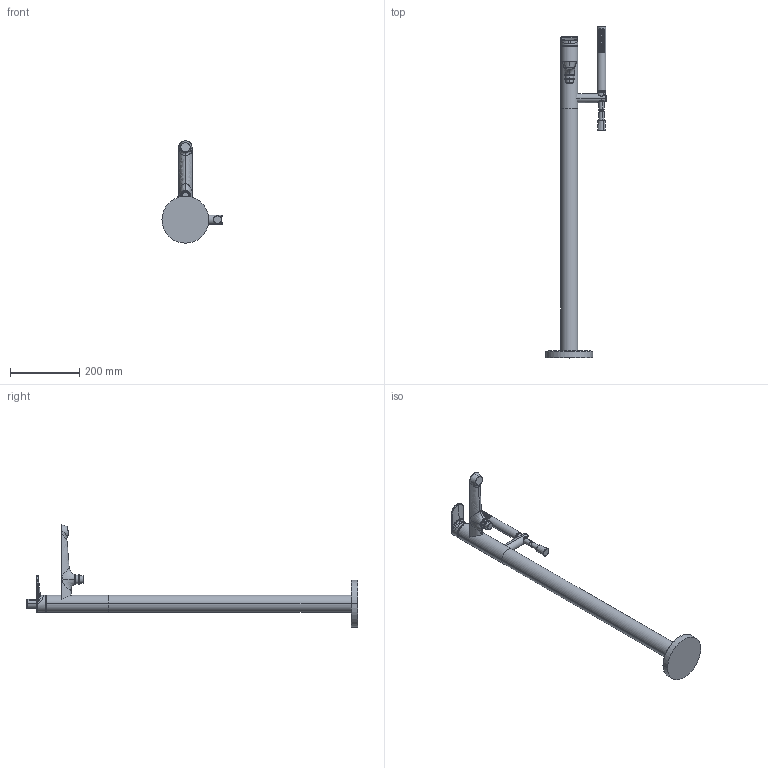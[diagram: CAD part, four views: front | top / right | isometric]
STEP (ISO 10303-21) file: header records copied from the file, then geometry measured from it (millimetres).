
FILE_DESCRIPTION (( 'STEP AP203' ), '1' );
FILE_NAME ('37832063(2025).STEP', '2024-12-18T07:10:31', ( '' ), ( '' ), 'SwSTEP 2.0', 'SolidWorks 2024', '' );
FILE_SCHEMA (( 'CONFIG_CONTROL_DESIGN' ));
Length unit declared in the file: millimetre
Products named in the file (1): 37832063(2025)
Bounding box: 173 x 955.69 x 294.66 mm (x, y, z)
Volume: 2330717.5 mm3; surface area: 261428.1 mm2
Topology: 15 solids, 15 shells, 503 faces, 1365 edges, 876 vertices
Faces by surface type: bspline 231, cylinder 129, plane 119, cone 14, torus 10
Entity records: 39769 total; most frequent: CARTESIAN_POINT 29144, ORIENTED_EDGE 2628, DIRECTION 1439, EDGE_CURVE 1314, VERTEX_POINT 876, B_SPLINE_CURVE_WITH_KNOTS 690, EDGE_LOOP 586, AXIS2_PLACEMENT_3D 567
